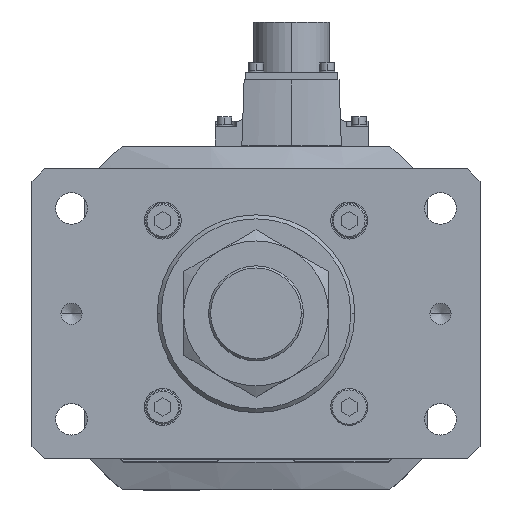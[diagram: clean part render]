
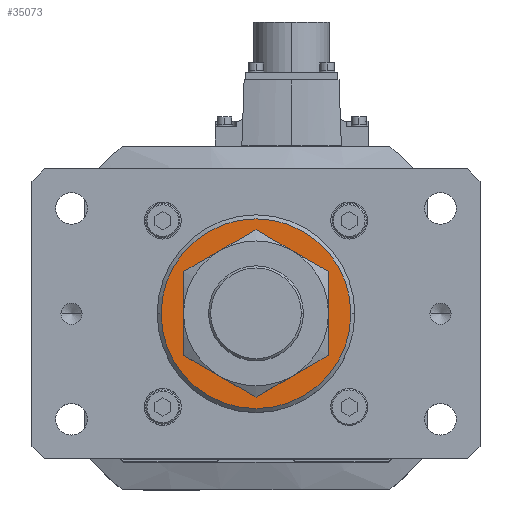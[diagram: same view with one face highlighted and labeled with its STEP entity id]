
A CAD part, top view. The second image highlights one B-rep face of the part: STEP entity #35073.
In plain terms, the highlighted planar face has unit normal (0, 0, 1).
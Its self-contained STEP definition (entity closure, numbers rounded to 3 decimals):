
#254 = EDGE_CURVE ( 'NONE', #34478, #20144, #19346, .T. ) ;
#925 = CARTESIAN_POINT ( 'NONE',  ( -23., 0., 696. ) ) ;
#1524 = CARTESIAN_POINT ( 'NONE',  ( 0., 0., 696. ) ) ;
#1543 = CIRCLE ( 'NONE', #7095, 23. ) ;
#1836 = AXIS2_PLACEMENT_3D ( 'NONE', #1524, #27197, #21597 ) ;
#4227 = CARTESIAN_POINT ( 'NONE',  ( 23., 0., 696. ) ) ;
#6131 = CARTESIAN_POINT ( 'NONE',  ( 0., 0., 696. ) ) ;
#7095 = AXIS2_PLACEMENT_3D ( 'NONE', #6131, #29198, #29069 ) ;
#7236 = CARTESIAN_POINT ( 'NONE',  ( 0., 0., 696. ) ) ;
#8591 = CIRCLE ( 'NONE', #16741, 36. ) ;
#8742 = DIRECTION ( 'NONE',  ( 0., 0., 1. ) ) ;
#10126 = DIRECTION ( 'NONE',  ( 0., 0., 1. ) ) ;
#10557 = FACE_OUTER_BOUND ( 'NONE', #16550, .T. ) ;
#10621 = EDGE_CURVE ( 'NONE', #20144, #34478, #8591, .T. ) ;
#11375 = CARTESIAN_POINT ( 'NONE',  ( 0., 0., 696. ) ) ;
#13524 = CARTESIAN_POINT ( 'NONE',  ( 36., 0., 696. ) ) ;
#13963 = CARTESIAN_POINT ( 'NONE',  ( -36., 0., 696. ) ) ;
#14263 = ORIENTED_EDGE ( 'NONE', *, *, #254, .T. ) ;
#14496 = AXIS2_PLACEMENT_3D ( 'NONE', #11375, #8742, #16935 ) ;
#14554 = PLANE ( 'NONE',  #14496 ) ;
#15668 = AXIS2_PLACEMENT_3D ( 'NONE', #16962, #25689, #25809 ) ;
#15750 = ORIENTED_EDGE ( 'NONE', *, *, #32986, .T. ) ;
#16550 = EDGE_LOOP ( 'NONE', ( #28720, #14263 ) ) ;
#16741 = AXIS2_PLACEMENT_3D ( 'NONE', #7236, #10126, #33045 ) ;
#16935 = DIRECTION ( 'NONE',  ( 1., 0., 0. ) ) ;
#16962 = CARTESIAN_POINT ( 'NONE',  ( 0., 0., 696. ) ) ;
#17814 = EDGE_CURVE ( 'NONE', #20503, #27799, #1543, .T. ) ;
#19346 = CIRCLE ( 'NONE', #1836, 36. ) ;
#20144 = VERTEX_POINT ( 'NONE', #13963 ) ;
#20503 = VERTEX_POINT ( 'NONE', #4227 ) ;
#21597 = DIRECTION ( 'NONE',  ( 1., 0., 0. ) ) ;
#24501 = EDGE_LOOP ( 'NONE', ( #30681, #15750 ) ) ;
#25689 = DIRECTION ( 'NONE',  ( 0., 0., -1. ) ) ;
#25809 = DIRECTION ( 'NONE',  ( 1., 0., 0. ) ) ;
#27197 = DIRECTION ( 'NONE',  ( 0., 0., 1. ) ) ;
#27799 = VERTEX_POINT ( 'NONE', #925 ) ;
#28720 = ORIENTED_EDGE ( 'NONE', *, *, #10621, .T. ) ;
#28924 = FACE_BOUND ( 'NONE', #24501, .T. ) ;
#29069 = DIRECTION ( 'NONE',  ( 1., 0., 0. ) ) ;
#29198 = DIRECTION ( 'NONE',  ( 0., 0., -1. ) ) ;
#30681 = ORIENTED_EDGE ( 'NONE', *, *, #17814, .T. ) ;
#32624 = CIRCLE ( 'NONE', #15668, 23. ) ;
#32986 = EDGE_CURVE ( 'NONE', #27799, #20503, #32624, .T. ) ;
#33045 = DIRECTION ( 'NONE',  ( 1., 0., 0. ) ) ;
#34478 = VERTEX_POINT ( 'NONE', #13524 ) ;
#35073 = ADVANCED_FACE ( 'NONE', ( #28924, #10557 ), #14554, .T. ) ;
